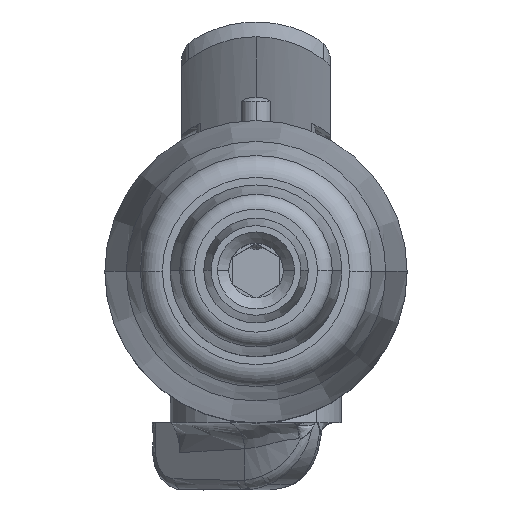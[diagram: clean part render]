
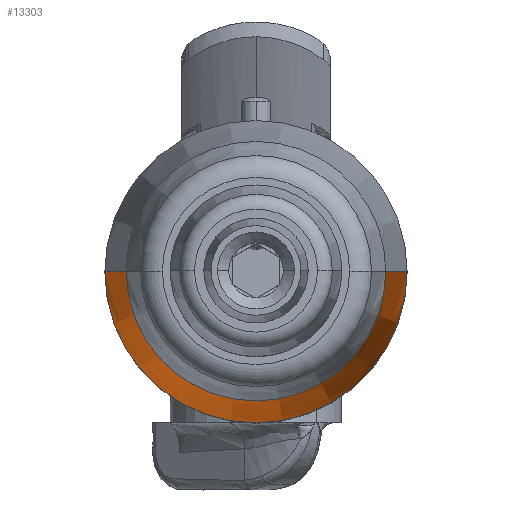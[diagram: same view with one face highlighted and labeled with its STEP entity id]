
A CAD part, top view. The second image highlights one B-rep face of the part: STEP entity #13303.
In plain terms, the highlighted conical face has half-angle 4 degrees and reference radius 20.25 mm.
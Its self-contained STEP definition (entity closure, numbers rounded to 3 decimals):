
#3254 = DIRECTION ( 'NONE',  ( 1., 0., 0. ) ) ;
#3255 = DIRECTION ( 'NONE',  ( 0., 0., 1. ) ) ;
#3256 = CARTESIAN_POINT ( 'NONE',  ( 0., 0., -63.4 ) ) ;
#3257 = AXIS2_PLACEMENT_3D ( 'NONE', #3256, #3255, #3254 ) ;
#3258 = CIRCLE ( 'NONE', #3257, 20.25 ) ;
#4036 = CARTESIAN_POINT ( 'NONE',  ( 20.25, 0., -63.4 ) ) ;
#4037 = DIRECTION ( 'NONE',  ( 0.07, 0., -0.998 ) ) ;
#4038 = VECTOR ( 'NONE', #4037, 1000. ) ;
#4039 = CARTESIAN_POINT ( 'NONE',  ( 20.25, 0., -63.4 ) ) ;
#4040 = LINE ( 'NONE', #4039, #4038 ) ;
#4041 = CARTESIAN_POINT ( 'NONE',  ( -17.383, 0., -22.4 ) ) ;
#4042 = CARTESIAN_POINT ( 'NONE',  ( 17.383, 0., -22.4 ) ) ;
#4089 = DIRECTION ( 'NONE',  ( -0.07, 0., -0.998 ) ) ;
#4090 = VECTOR ( 'NONE', #4089, 1000. ) ;
#4091 = CARTESIAN_POINT ( 'NONE',  ( -20.25, 0., -63.4 ) ) ;
#4092 = LINE ( 'NONE', #4091, #4090 ) ;
#4093 = CARTESIAN_POINT ( 'NONE',  ( -20.25, 0., -63.4 ) ) ;
#4209 = DIRECTION ( 'NONE',  ( 1., 0., 0. ) ) ;
#4210 = DIRECTION ( 'NONE',  ( 0., 0., 1. ) ) ;
#4211 = CARTESIAN_POINT ( 'NONE',  ( 0., 0., -22.4 ) ) ;
#4212 = AXIS2_PLACEMENT_3D ( 'NONE', #4211, #4210, #4209 ) ;
#4217 = CIRCLE ( 'NONE', #4212, 17.383 ) ;
#4258 = CONICAL_SURFACE ( 'NONE', #4322, 20.25, 0.07 ) ;
#4259 = FACE_OUTER_BOUND ( 'NONE', #13304, .T. ) ;
#4319 = DIRECTION ( 'NONE',  ( -1., 0., 0. ) ) ;
#4320 = DIRECTION ( 'NONE',  ( 0., 0., -1. ) ) ;
#4321 = CARTESIAN_POINT ( 'NONE',  ( 0., 0., -63.4 ) ) ;
#4322 = AXIS2_PLACEMENT_3D ( 'NONE', #4321, #4320, #4319 ) ;
#12821 = EDGE_CURVE ( 'NONE', #13172, #13169, #3258, .T. ) ;
#13165 = VERTEX_POINT ( 'NONE', #4042 ) ;
#13166 = VERTEX_POINT ( 'NONE', #4041 ) ;
#13168 = EDGE_CURVE ( 'NONE', #13165, #13169, #4040, .T. ) ;
#13169 = VERTEX_POINT ( 'NONE', #4036 ) ;
#13172 = VERTEX_POINT ( 'NONE', #4093 ) ;
#13174 = EDGE_CURVE ( 'NONE', #13166, #13172, #4092, .T. ) ;
#13233 = ORIENTED_EDGE ( 'NONE', *, *, #13174, .T. ) ;
#13234 = ORIENTED_EDGE ( 'NONE', *, *, #12821, .T. ) ;
#13254 = EDGE_CURVE ( 'NONE', #13166, #13165, #4217, .T. ) ;
#13303 = ADVANCED_FACE ( 'NONE', ( #4259 ), #4258, .T. ) ;
#13304 = EDGE_LOOP ( 'NONE', ( #13305, #13306, #13233, #13234 ) ) ;
#13305 = ORIENTED_EDGE ( 'NONE', *, *, #13168, .F. ) ;
#13306 = ORIENTED_EDGE ( 'NONE', *, *, #13254, .F. ) ;
